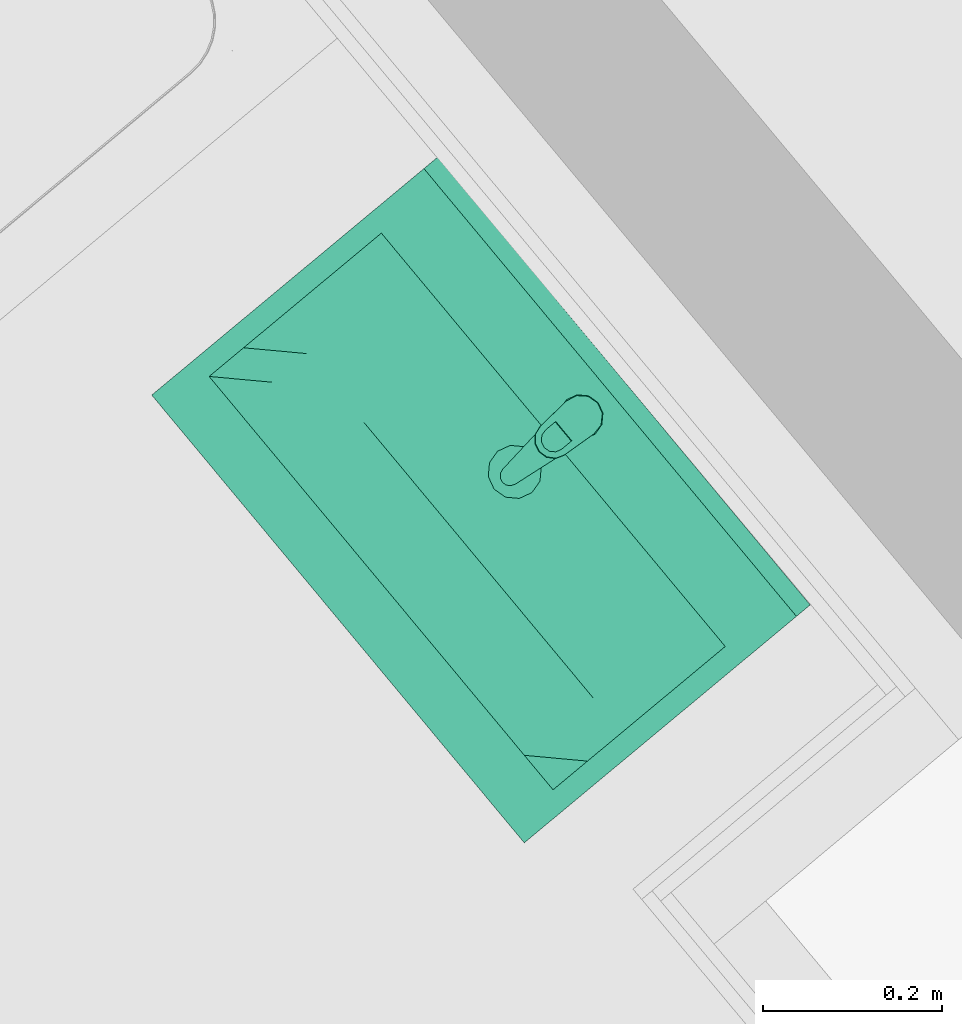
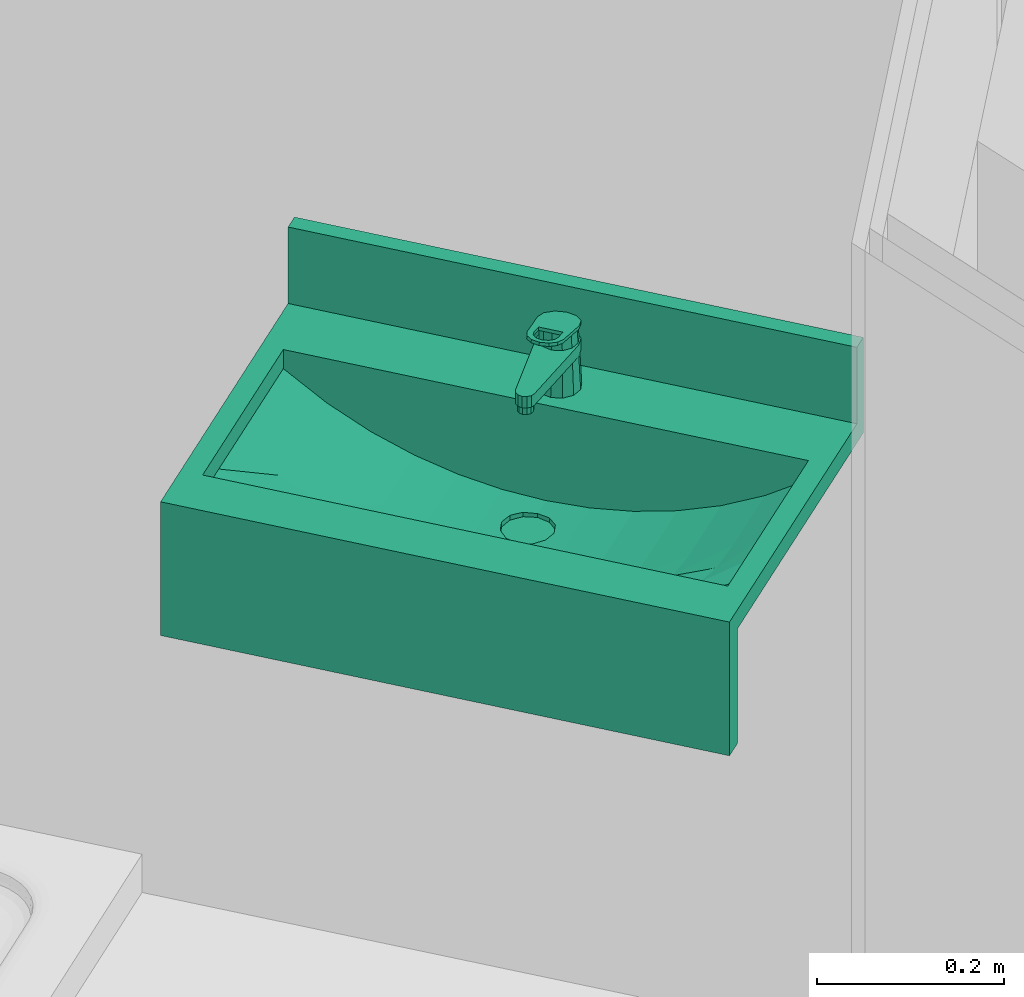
# One storey, part 54 of 61: 1 sanitary terminal.
"""IFC4 building model written with IfcOpenShell, lengths in metres."""

from ifc_helpers import new_model, entity, si_unit, converted_unit, derived_unit, direction, frame, origin_with_axes, place, context, subcontext, project, spatial, polygons, source, transform, mapped, type_object, element, save


model = new_model("IFC4")

# Units and contexts
model_context = context("Model", 3, precision=1e-05, world=origin_with_axes(), true_north=direction((0.0, 1.0)))
body_context = subcontext(model_context, "Body", "Model", "MODEL_VIEW")
ifc_project = project(units=[si_unit("LENGTHUNIT", "METRE"), si_unit("AREAUNIT", "SQUARE_METRE"), si_unit("VOLUMEUNIT", "CUBIC_METRE"), converted_unit("PLANEANGLEUNIT", "DEGREE", entity("IfcPlaneAngleMeasure", 0.0174532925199), si_unit("PLANEANGLEUNIT", "RADIAN"), dimensions=[0, 0, 0, 0, 0, 0, 0]), converted_unit("TIMEUNIT", "Year", entity("IfcTimeMeasure", 31556926.0), si_unit("TIMEUNIT", "SECOND"), dimensions=[0, 0, 1, 0, 0, 0, 0]), si_unit("MASSUNIT", "GRAM", prefix="KILO"), si_unit("THERMODYNAMICTEMPERATUREUNIT", "DEGREE_CELSIUS"), si_unit("LUMINOUSINTENSITYUNIT", "LUMEN"), si_unit("ENERGYUNIT", "JOULE", prefix="MEGA"), derived_unit("THERMALCONDUCTANCEUNIT", [(si_unit("POWERUNIT", "WATT"), 1), (si_unit("LENGTHUNIT", "METRE"), -1), (si_unit("THERMODYNAMICTEMPERATUREUNIT", "KELVIN"), -1)]), derived_unit("SPECIFICHEATCAPACITYUNIT", [(si_unit("ENERGYUNIT", "JOULE"), 1), (si_unit("MASSUNIT", "GRAM", prefix="KILO"), -1), (si_unit("THERMODYNAMICTEMPERATUREUNIT", "KELVIN"), -1)]), derived_unit("MASSDENSITYUNIT", [(si_unit("MASSUNIT", "GRAM", prefix="KILO"), 1), (si_unit("VOLUMEUNIT", "CUBIC_METRE"), -1)])], contexts=[model_context])

# Site, building, storey, space
site_placement = place(None, frame((-0.00153261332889, -0.00661245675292, 0.0), z_axis=(0.0, 0.0, 1.0), x_axis=(1.0, 0.0, 0.0)))
site = spatial("IfcSite", under=ifc_project, at=site_placement, Name="Gelände", CompositionType="ELEMENT")
building_placement = place(site_placement, origin_with_axes())
building = spatial("IfcBuilding", under=site, at=building_placement, Name="Gebäude", CompositionType="ELEMENT")
storey_placement = place(building_placement, frame((0.0, 0.0, 5.7), z_axis=(0.0, 0.0, 1.0), x_axis=(1.0, 0.0, 0.0)))
storey = spatial("IfcBuildingStorey", under=building, at=storey_placement, Name="DG1", CompositionType="ELEMENT", Elevation=5.7)
space_placement = place(storey_placement, frame((-4.3622730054, 22.081456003, 0.22), z_axis=(0.0, 0.0, 1.0), x_axis=(-0.767365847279, -0.641209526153, 0.0)))
space = spatial("IfcSpace", under=storey, at=space_placement, CompositionType="ELEMENT", PredefinedType="NOTDEFINED")

# Sanitary terminal
sanitary_terminal_type = type_object("IfcSanitaryTerminalType", Name="Waschbecken mehrfach 26", PredefinedType="NOTDEFINED")
shared_shape = source(origin_with_axes(), body_context, "Body", "Tessellation", [
    polygons([(-0.325, 0.0, 0.875), (0.325, 0.0, 0.875), (0.325, -0.415119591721, 0.875), (-0.325, -0.415119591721, 0.875), (-0.3, -0.35255979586, 0.875), (0.3, -0.35255979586, 0.875), (0.3, -0.10255979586, 0.875), (-0.3, -0.10255979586, 0.875), (-0.325, 0.0, 0.9), (0.325, 0.0, 0.9), (0.325, -0.415119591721, 0.9), (-0.325, -0.415119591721, 0.9), (-0.3, -0.35255979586, 0.9), (0.3, -0.35255979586, 0.9), (0.3, -0.10255979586, 0.9), (-0.3, -0.10255979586, 0.9)], [[[1, 2, 3, 4], [5, 6, 7, 8]], [[1, 9, 10, 2]], [[2, 10, 11, 3]], [[3, 11, 12, 4]], [[4, 12, 9, 1]], [[13, 14, 6, 5]], [[14, 15, 7, 6]], [[15, 16, 8, 7]], [[16, 13, 5, 8]], [[11, 10, 9, 12], [13, 16, 15, 14]]], closed=True),
    polygons([(-0.325, -0.02, 0.9), (0.325, -0.02, 0.9), (0.325, -0.02, 1.0), (-0.325, -0.02, 1.0), (-0.325, 0.0, 0.9), (0.325, 0.0, 0.9), (0.325, 0.0, 1.0), (-0.325, 0.0, 1.0)], [[[1, 2, 3, 4]], [[1, 5, 6, 2]], [[2, 6, 7, 3]], [[4, 3, 7, 8]], [[5, 1, 4, 8]], [[6, 5, 8, 7]]], closed=True),
    polygons([(-0.325, -0.415119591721, 0.725), (0.325, -0.415119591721, 0.725), (0.325, -0.415119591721, 0.875), (-0.325, -0.415119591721, 0.875), (-0.325, -0.390119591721, 0.725), (0.325, -0.390119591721, 0.725), (0.325, -0.390119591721, 0.875), (-0.325, -0.390119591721, 0.875)], [[[1, 2, 3, 4]], [[1, 5, 6, 2]], [[2, 6, 7, 3]], [[4, 3, 7, 8]], [[5, 1, 4, 8]], [[6, 5, 8, 7]]], closed=True),
    polygons([(0.0, -0.18855104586, 0.775), (-0.015, -0.184531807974, 0.775751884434), (-0.0259807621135, -0.17355104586, 0.776302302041), (-0.03, -0.15855104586, 0.776503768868), (-0.0283946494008, -0.15255979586, 0.77642329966), (-0.05, -0.15255979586, 0.777506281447), (-0.05, -0.20255979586, 0.777506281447), (0.0, -0.20255979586, 0.775), (-0.015, -0.132570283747, 0.775751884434), (0.0, -0.12855104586, 0.775), (0.0, -0.10255979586, 0.775), (-0.05, -0.10255979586, 0.777506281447), (-0.0259807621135, -0.14355104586, 0.776302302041), (-0.1, -0.15255979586, 0.785102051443), (-0.1, -0.20255979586, 0.785102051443), (-0.05, -0.25255979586, 0.788254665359), (0.05, -0.15255979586, 0.777506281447), (0.0283946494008, -0.15255979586, 0.77642329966), (0.03, -0.15855104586, 0.776503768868), (0.0259807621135, -0.17355104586, 0.776302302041), (0.015, -0.184531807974, 0.775751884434), (0.05, -0.20255979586, 0.777506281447), (0.015, -0.132570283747, 0.775751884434), (0.0259807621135, -0.14355104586, 0.776302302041), (0.05, -0.10255979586, 0.777506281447), (0.15, -0.10255979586, 0.798030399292), (0.2, -0.10255979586, 0.816742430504), (0.25, -0.10255979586, 0.841987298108), (0.3, -0.10255979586, 0.875), (-0.3, -0.10255979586, 0.875), (-0.25, -0.10255979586, 0.841987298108), (-0.2, -0.10255979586, 0.816742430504), (-0.15, -0.10255979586, 0.798030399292), (-0.1, -0.10255979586, 0.785102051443), (0.1, -0.10255979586, 0.785102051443), (-0.15, -0.15255979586, 0.798030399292), (-0.15, -0.20255979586, 0.798030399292), (-0.1, -0.25255979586, 0.795144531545), (0.0, -0.25255979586, 0.785977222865), (0.1, -0.20255979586, 0.785102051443), (0.1, -0.15255979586, 0.785102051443), (0.2, -0.15255979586, 0.816742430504), (0.15, -0.15255979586, 0.798030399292), (0.25, -0.15255979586, 0.841987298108), (0.3, -0.15255979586, 0.875), (-0.25, -0.15255979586, 0.841987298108), (-0.3, -0.15255979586, 0.875), (-0.2, -0.15255979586, 0.816742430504), (-0.2, -0.20255979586, 0.816742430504), (-0.15, -0.25255979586, 0.806826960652), (-0.05, -0.30255979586, 0.830189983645), (-0.1, -0.30255979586, 0.83395176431), (0.05, -0.25255979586, 0.788254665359), (0.15, -0.20255979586, 0.798030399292), (0.2, -0.20255979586, 0.816742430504), (0.25, -0.20255979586, 0.841987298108), (0.3, -0.20255979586, 0.875), (0.3, -0.25255979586, 0.875), (0.3, -0.30255979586, 0.875), (0.3, -0.35255979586, 0.875), (-0.3, -0.25255979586, 0.875), (-0.3, -0.20255979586, 0.875), (-0.3, -0.35255979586, 0.875), (-0.3, -0.30255979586, 0.875), (-0.25, -0.20255979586, 0.841987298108), (-0.2, -0.25255979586, 0.823629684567), (-0.15, -0.30255979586, 0.840253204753), (0.0, -0.30255979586, 0.828939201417), (0.1, -0.25255979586, 0.795144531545), (0.15, -0.25255979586, 0.806826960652), (0.2, -0.25255979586, 0.823629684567), (0.25, -0.25255979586, 0.846079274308), (0.25, -0.30255979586, 0.860693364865), (0.25, -0.35255979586, 0.875), (-0.25, -0.30255979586, 0.860693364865), (-0.25, -0.25255979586, 0.846079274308), (-0.2, -0.30255979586, 0.849143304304), (-0.05, -0.35255979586, 0.875), (-0.1, -0.35255979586, 0.875), (-0.15, -0.35255979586, 0.875), (0.05, -0.30255979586, 0.830189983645), (-0.2, -0.35255979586, 0.875), (-0.25, -0.35255979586, 0.875), (0.2, -0.35255979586, 0.875), (0.15, -0.35255979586, 0.875), (0.1, -0.35255979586, 0.875), (0.05, -0.35255979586, 0.875), (0.0, -0.35255979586, 0.875), (0.1, -0.30255979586, 0.83395176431), (0.15, -0.30255979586, 0.840253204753), (0.2, -0.30255979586, 0.849143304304)], [[[1, 2, 3, 4, 5, 6, 7, 8]], [[9, 10, 11, 12, 6, 5, 13]], [[7, 6, 14, 15]], [[16, 8, 7]], [[17, 18, 19, 20, 21, 1, 8, 22]], [[10, 23, 24, 18, 17, 25, 11]], [[26, 27, 28, 29, 30, 31, 32, 33, 34, 12, 11, 25, 35]], [[6, 12, 34, 14]], [[15, 14, 36, 37]], [[38, 7, 15]], [[16, 39, 8]], [[38, 16, 7]], [[39, 22, 8]], [[40, 41, 17, 22]], [[41, 35, 25, 17]], [[42, 27, 26, 43]], [[44, 28, 27, 42]], [[45, 29, 28, 44]], [[46, 31, 30, 47]], [[48, 32, 31, 46]], [[36, 33, 32, 48]], [[14, 34, 33, 36]], [[43, 26, 35, 41]], [[37, 36, 48, 49]], [[50, 15, 37]], [[50, 38, 15]], [[51, 39, 16]], [[52, 16, 38]], [[39, 53, 22]], [[54, 43, 41, 40]], [[53, 40, 22]], [[55, 42, 43, 54]], [[56, 44, 42, 55]], [[57, 58, 59, 60, 29, 45]], [[57, 45, 44, 56]], [[61, 62, 47, 30, 63, 64]], [[65, 46, 47, 62]], [[49, 48, 46, 65]], [[66, 37, 49]], [[66, 50, 37]], [[67, 38, 50]], [[51, 68, 39]], [[52, 51, 16]], [[67, 52, 38]], [[68, 53, 39]], [[69, 54, 40]], [[53, 69, 40]], [[70, 55, 54]], [[71, 56, 55]], [[72, 58, 57]], [[73, 59, 58]], [[74, 60, 59]], [[72, 57, 56]], [[61, 65, 62]], [[63, 75, 64]], [[64, 76, 61]], [[76, 49, 65]], [[76, 66, 49]], [[77, 50, 66]], [[77, 67, 50]], [[78, 68, 51]], [[79, 51, 52]], [[80, 52, 67]], [[68, 81, 53]], [[69, 70, 54]], [[81, 69, 53]], [[70, 71, 55]], [[71, 72, 56]], [[73, 58, 72]], [[74, 59, 73]], [[80, 82, 83, 63, 60, 74, 84, 85, 86, 87, 88, 78, 79]], [[61, 76, 65]], [[63, 83, 75]], [[64, 75, 76]], [[75, 66, 76]], [[75, 77, 66]], [[82, 67, 77]], [[78, 88, 68]], [[79, 78, 51]], [[80, 79, 52]], [[82, 80, 67]], [[88, 81, 68]], [[89, 70, 69]], [[81, 89, 69]], [[90, 71, 70]], [[91, 72, 71]], [[91, 73, 72]], [[84, 74, 73]], [[83, 82, 77]], [[85, 84, 91]], [[86, 85, 90]], [[87, 86, 89]], [[88, 87, 81]], [[83, 77, 75]], [[89, 90, 70]], [[87, 89, 81]], [[90, 91, 71]], [[84, 73, 91]], [[85, 91, 90]], [[86, 90, 89]]], closed=False),
    polygons([(0.03, -0.15855104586, 0.776503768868), (0.0259807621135, -0.17355104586, 0.776302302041), (0.0259807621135, -0.17355104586, 0.77), (0.03, -0.15855104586, 0.77), (0.015, -0.184531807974, 0.775751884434), (0.015, -0.184531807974, 0.77), (0.0, -0.12855104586, 0.77), (0.015, -0.132570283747, 0.77), (0.0259807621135, -0.14355104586, 0.77), (0.0, -0.18855104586, 0.77), (-0.015, -0.184531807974, 0.77), (-0.0259807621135, -0.17355104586, 0.77), (-0.03, -0.15855104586, 0.77), (-0.0259807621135, -0.14355104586, 0.77), (-0.015, -0.132570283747, 0.77), (0.0259807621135, -0.14355104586, 0.776302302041), (0.0, -0.18855104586, 0.775), (0.0, -0.12855104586, 0.775), (0.015, -0.132570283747, 0.775751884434), (-0.015, -0.184531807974, 0.775751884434), (-0.0259807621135, -0.17355104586, 0.776302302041), (-0.03, -0.15855104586, 0.776503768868), (-0.0259807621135, -0.14355104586, 0.776302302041), (-0.015, -0.132570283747, 0.775751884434)], [[[1, 2, 3, 4]], [[2, 5, 6, 3]], [[7, 8, 9, 4, 3, 6, 10, 11, 12, 13, 14, 15]], [[16, 1, 4, 9]], [[5, 17, 10, 6]], [[18, 19, 8, 7]], [[19, 16, 9, 8]], [[17, 20, 11, 10]], [[20, 21, 12, 11]], [[21, 22, 13, 12]], [[22, 23, 14, 13]], [[23, 24, 15, 14]], [[24, 18, 7, 15]]], closed=False),
    polygons([(0.0125, -0.0409091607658, 0.9), (0.0, -0.0375597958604, 0.9), (0.0, -0.0413578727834, 0.975961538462), (0.0105873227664, -0.0442220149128, 0.976507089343), (0.0216506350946, -0.0500597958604, 0.9), (0.025, -0.0625597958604, 0.9), (0.0216506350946, -0.0750597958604, 0.9), (0.0125, -0.084210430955, 0.9), (0.0, -0.0875597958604, 0.9), (-0.0125, -0.084210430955, 0.9), (-0.0216506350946, -0.0750597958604, 0.9), (-0.025, -0.0625597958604, 0.9), (-0.0216506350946, -0.0500597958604, 0.9), (-0.0125, -0.0409091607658, 0.9), (-0.0105873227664, -0.0442220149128, 0.976507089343), (-0.0182735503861, -0.0520095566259, 0.977990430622), (-0.021, -0.0625597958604, 0.98), (-0.0181003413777, -0.0730100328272, 0.981990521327), (-0.0104141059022, -0.0805975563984, 0.983435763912), (0.0, -0.0833616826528, 0.983962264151), (0.0104141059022, -0.0805975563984, 0.983435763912), (0.0181003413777, -0.0730100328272, 0.981990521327), (0.021, -0.0625597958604, 0.98), (0.0182735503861, -0.0520095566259, 0.977990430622)], [[[1, 2, 3, 4]], [[1, 5, 6, 7, 8, 9, 10, 11, 12, 13, 14, 2]], [[2, 14, 15, 3]], [[4, 3, 15, 16, 17, 18, 19, 20, 21, 22, 23, 24]], [[5, 1, 4, 24]], [[6, 5, 24, 23]], [[7, 6, 23, 22]], [[8, 7, 22, 21]], [[9, 8, 21, 20]], [[10, 9, 20, 19]], [[11, 10, 19, 18]], [[12, 11, 18, 17]], [[13, 12, 17, 16]], [[14, 13, 16, 15]]], closed=True),
    polygons([(0.009, -0.16555979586, 0.935), (0.00779422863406, -0.16105979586, 0.935), (0.00779422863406, -0.16105979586, 0.945), (0.009, -0.16555979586, 0.945), (0.00779422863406, -0.17005979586, 0.935), (0.0045, -0.173354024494, 0.935), (0.0, -0.17455979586, 0.935), (-0.0045, -0.173354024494, 0.935), (-0.00779422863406, -0.17005979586, 0.935), (-0.009, -0.16555979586, 0.935), (-0.00779422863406, -0.16105979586, 0.935), (-0.0045, -0.157765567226, 0.935), (0.0, -0.15655979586, 0.935), (0.0045, -0.157765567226, 0.935), (0.0045, -0.157765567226, 0.945), (0.0, -0.15655979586, 0.945), (-0.0045, -0.157765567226, 0.945), (-0.00779422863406, -0.16105979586, 0.945), (-0.009, -0.16555979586, 0.945), (-0.00779422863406, -0.17005979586, 0.945), (-0.0045, -0.173354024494, 0.945), (0.0, -0.17455979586, 0.945), (0.0045, -0.173354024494, 0.945), (0.00779422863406, -0.17005979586, 0.945)], [[[1, 2, 3, 4]], [[1, 5, 6, 7, 8, 9, 10, 11, 12, 13, 14, 2]], [[2, 14, 15, 3]], [[4, 3, 15, 16, 17, 18, 19, 20, 21, 22, 23, 24]], [[5, 1, 4, 24]], [[6, 5, 24, 23]], [[7, 6, 23, 22]], [[8, 7, 22, 21]], [[9, 8, 21, 20]], [[10, 9, 20, 19]], [[11, 10, 19, 18]], [[12, 11, 18, 17]], [[13, 12, 17, 16]], [[14, 13, 16, 15]]], closed=True),
    polygons([(-0.0128717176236, -0.0423034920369, 0.96), (-0.021727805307, -0.0523665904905, 0.96), (-0.0238054, -0.0656096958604, 0.96), (-0.010911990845, -0.166948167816, 0.96), (-0.00902887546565, -0.17184299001, 0.96), (-0.00509332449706, -0.175309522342, 0.96), (3.62679860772e-08, -0.176559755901, 0.96), (0.00509338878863, -0.175309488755, 0.96), (0.00902891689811, -0.171842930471, 0.96), (0.010912, -0.16694809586, 0.96), (0.0238053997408, -0.0656096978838, 0.96), (0.0217278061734, -0.0523665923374, 0.96), (0.0128717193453, -0.042303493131, 0.96), (1.01998896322e-09, -0.0385598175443, 0.96), (0.011, -0.0435072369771, 0.96), (0.0190525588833, -0.0515597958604, 0.96), (0.022, -0.0625597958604, 0.96), (0.0190525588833, -0.0735597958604, 0.96), (0.011, -0.0816123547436, 0.96), (0.0, -0.0845597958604, 0.96), (-0.011, -0.0816123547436, 0.96), (-0.0190525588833, -0.0735597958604, 0.96), (-0.022, -0.0625597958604, 0.96), (-0.0190525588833, -0.0515597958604, 0.96), (-0.011, -0.0435072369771, 0.96), (0.0, -0.0405597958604, 0.96), (-0.021727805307, -0.0523665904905, 0.945), (-0.0128717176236, -0.0423034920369, 0.945), (-0.0238054, -0.0656096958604, 0.945), (-0.010911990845, -0.166948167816, 0.945), (-0.00902887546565, -0.17184299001, 0.945), (-0.00509332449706, -0.175309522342, 0.945), (3.62679860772e-08, -0.176559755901, 0.945), (0.00509338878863, -0.175309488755, 0.945), (0.00902891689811, -0.171842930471, 0.945), (0.010912, -0.16694809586, 0.945), (0.0238053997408, -0.0656096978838, 0.945), (0.0217278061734, -0.0523665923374, 0.945), (0.0128717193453, -0.042303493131, 0.945), (1.01998896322e-09, -0.0385598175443, 0.945), (0.011375, -0.0428577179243, 0.945), (0.0197020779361, -0.0511847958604, 0.945), (0.02275, -0.0625597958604, 0.945), (0.0197020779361, -0.0739347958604, 0.945), (0.011375, -0.0822618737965, 0.945), (0.0, -0.0853097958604, 0.945), (-0.011375, -0.0822618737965, 0.945), (-0.0197020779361, -0.0739347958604, 0.945), (-0.02275, -0.0625597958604, 0.945), (-0.0197020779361, -0.0511847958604, 0.945), (-0.011375, -0.0428577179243, 0.945), (0.0, -0.0398097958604, 0.945)], [[[1, 2, 3, 4, 5, 6, 7, 8, 9, 10, 11, 12, 13, 14], [15, 16, 17, 18, 19, 20, 21, 22, 23, 24, 25, 26]], [[27, 2, 1, 28]], [[29, 3, 2, 27]], [[30, 4, 3, 29]], [[31, 5, 4, 30]], [[32, 6, 5, 31]], [[33, 7, 6, 32]], [[34, 8, 7, 33]], [[35, 9, 8, 34]], [[36, 10, 9, 35]], [[37, 11, 10, 36]], [[38, 12, 11, 37]], [[39, 13, 12, 38]], [[40, 14, 13, 39]], [[28, 1, 14, 40]], [[41, 42, 16, 15]], [[42, 43, 17, 16]], [[43, 44, 18, 17]], [[44, 45, 19, 18]], [[45, 46, 20, 19]], [[21, 20, 46, 47]], [[22, 21, 47, 48]], [[23, 22, 48, 49]], [[24, 23, 49, 50]], [[25, 24, 50, 51]], [[51, 52, 26, 25]], [[52, 41, 15, 26]], [[33, 32, 31, 30, 29, 27, 28, 40, 39, 38, 37, 36, 35, 34], [45, 44, 43, 42, 41, 52, 51, 50, 49, 48, 47, 46]]], closed=True),
    polygons([(0.023893, -0.0642523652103, 0.980322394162), (0.0212964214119, -0.0517850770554, 0.977947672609), (0.0212964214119, -0.0510366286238, 0.981877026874), (0.023893, -0.0635039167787, 0.984251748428), (0.0209459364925, -0.104396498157, 0.987968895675), (0.0176631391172, -0.114074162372, 0.989812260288), (0.0100614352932, -0.121023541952, 0.991135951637), (-4.42652908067e-07, -0.123545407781, 0.991616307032), (-0.0100622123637, -0.121023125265, 0.991135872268), (-0.0176636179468, -0.114073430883, 0.989812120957), (-0.020946, -0.104395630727, 0.987968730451), (-0.023893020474, -0.0642520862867, 0.980322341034), (-0.0212962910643, -0.0517848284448, 0.977947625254), (-0.0124716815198, -0.0424685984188, 0.976173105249), (1.42337785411e-07, -0.0390278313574, 0.975517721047), (0.0124719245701, -0.0424687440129, 0.976173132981), (0.014, -0.0881005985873, 0.984864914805), (-0.014, -0.0881005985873, 0.984864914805), (-0.014, -0.102916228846, 0.987686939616), (-0.012124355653, -0.109792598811, 0.988996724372), (-0.007, -0.114826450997, 0.989955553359), (0.0, -0.116668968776, 0.990306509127), (0.007, -0.114826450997, 0.989955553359), (0.012124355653, -0.109792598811, 0.988996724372), (0.014, -0.102916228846, 0.987686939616), (0.0124719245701, -0.0417202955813, 0.980102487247), (1.42337785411e-07, -0.0382793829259, 0.979447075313), (-0.0124716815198, -0.0417201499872, 0.980102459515), (-0.0212962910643, -0.0510363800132, 0.98187697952), (-0.023893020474, -0.0635036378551, 0.984251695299), (-0.020946, -0.103647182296, 0.991898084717), (-0.0176636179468, -0.113324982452, 0.993741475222), (-0.0100622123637, -0.120274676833, 0.995065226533), (-4.42652908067e-07, -0.122796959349, 0.995545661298), (0.0100614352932, -0.120275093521, 0.995065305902), (0.0176631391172, -0.11332571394, 0.993741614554), (0.0209459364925, -0.103648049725, 0.991898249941), (0.014, -0.0873521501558, 0.988794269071), (0.014, -0.102167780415, 0.991616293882), (0.012124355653, -0.10904415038, 0.992926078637), (0.007, -0.114078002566, 0.993884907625), (0.0, -0.115920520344, 0.994235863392), (-0.007, -0.114078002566, 0.993884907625), (-0.012124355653, -0.10904415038, 0.992926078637), (-0.014, -0.102167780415, 0.991616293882), (-0.014, -0.0873521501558, 0.988794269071)], [[[1, 2, 3, 4]], [[1, 5, 6, 7, 8, 9, 10, 11, 12, 13, 14, 15, 16, 2], [17, 18, 19, 20, 21, 22, 23, 24, 25]], [[2, 16, 26, 3]], [[4, 3, 26, 27, 28, 29, 30, 31, 32, 33, 34, 35, 36, 37], [38, 39, 40, 41, 42, 43, 44, 45, 46]], [[5, 1, 4, 37]], [[6, 5, 37, 36]], [[7, 6, 36, 35]], [[8, 7, 35, 34]], [[9, 8, 34, 33]], [[10, 9, 33, 32]], [[11, 10, 32, 31]], [[12, 11, 31, 30]], [[13, 12, 30, 29]], [[14, 13, 29, 28]], [[15, 14, 28, 27]], [[16, 15, 27, 26]], [[18, 17, 38, 46]], [[19, 18, 46, 45]], [[20, 19, 45, 44]], [[21, 20, 44, 43]], [[22, 21, 43, 42]], [[23, 22, 42, 41]], [[24, 23, 41, 40]], [[25, 24, 40, 39]], [[17, 25, 39, 38]]], closed=True),
])
sanitary_terminal_placement = place(space_placement, frame((-0.390593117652, 1.39841590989, -0.075), z_axis=(0.0, 0.0, 1.0), x_axis=(0.00208981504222, 0.999997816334, 0.0)))
element("IfcSanitaryTerminal", 1, at=sanitary_terminal_placement, inside=space, type_object=sanitary_terminal_type, Name="Objekt-0009", PredefinedType="NOTDEFINED", context=body_context, shape_type="MappedRepresentation", body=[
    mapped(shared_shape, transform((0.0, 0.0, 0.0))),
])

save(model, "model.ifc")
